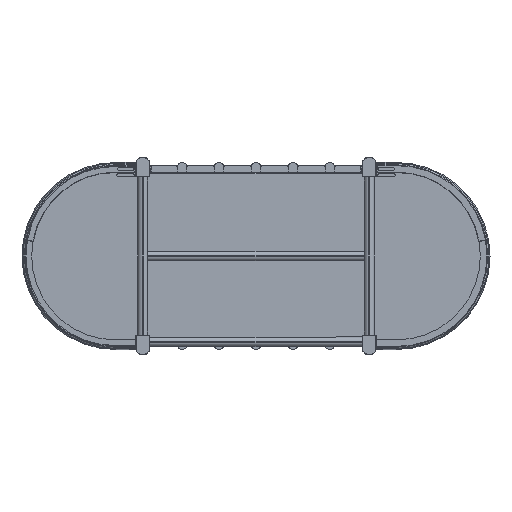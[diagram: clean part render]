
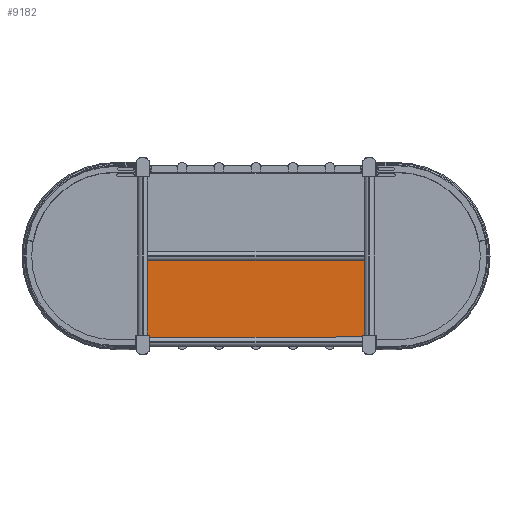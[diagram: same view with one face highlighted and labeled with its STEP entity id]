
A CAD part, front view. The second image highlights one B-rep face of the part: STEP entity #9182.
In plain terms, the highlighted planar face has unit normal (0, -1, 0).
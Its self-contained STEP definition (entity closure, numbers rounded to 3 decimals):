
#87 = EDGE_CURVE ( 'NONE', #7983, #37846, #29804, .T. ) ;
#394 = CARTESIAN_POINT ( 'NONE',  ( -242., 745., -191. ) ) ;
#412 = EDGE_CURVE ( 'NONE', #27835, #12278, #17730, .T. ) ;
#912 = ORIENTED_EDGE ( 'NONE', *, *, #33709, .F. ) ;
#2068 = ORIENTED_EDGE ( 'NONE', *, *, #19339, .F. ) ;
#2207 = VERTEX_POINT ( 'NONE', #38625 ) ;
#2539 = CARTESIAN_POINT ( 'NONE',  ( 320., 745., 0. ) ) ;
#2897 = CARTESIAN_POINT ( 'NONE',  ( 74., 745., -191. ) ) ;
#3186 = CARTESIAN_POINT ( 'NONE',  ( 0., 745., -191. ) ) ;
#3383 = CARTESIAN_POINT ( 'NONE',  ( -94., 745., -191. ) ) ;
#3809 = LINE ( 'NONE', #7583, #35903 ) ;
#3995 = CARTESIAN_POINT ( 'NONE',  ( -247., 745., -11. ) ) ;
#4085 = CARTESIAN_POINT ( 'NONE',  ( -168., 745., -191. ) ) ;
#4111 = EDGE_CURVE ( 'NONE', #30692, #13128, #5861, .T. ) ;
#4134 = VECTOR ( 'NONE', #18621, 1000. ) ;
#4641 = EDGE_CURVE ( 'NONE', #5476, #13377, #25584, .T. ) ;
#4764 = CARTESIAN_POINT ( 'NONE',  ( -158., 745., -191. ) ) ;
#4911 = CARTESIAN_POINT ( 'NONE',  ( -10., 745., -191. ) ) ;
#5269 = EDGE_LOOP ( 'NONE', ( #12206, #37447, #6153, #46299, #31481, #27452, #912, #41655, #42933, #9352, #6226, #2068, #36831, #36658, #5713, #14315, #11573, #26604 ) ) ;
#5476 = VERTEX_POINT ( 'NONE', #8665 ) ;
#5713 = ORIENTED_EDGE ( 'NONE', *, *, #412, .F. ) ;
#5832 = DIRECTION ( 'NONE',  ( 0., 0., 1. ) ) ;
#5861 = LINE ( 'NONE', #16699, #35597 ) ;
#6153 = ORIENTED_EDGE ( 'NONE', *, *, #19006, .F. ) ;
#6226 = ORIENTED_EDGE ( 'NONE', *, *, #30829, .T. ) ;
#6296 = LINE ( 'NONE', #42138, #11784 ) ;
#6305 = CARTESIAN_POINT ( 'NONE',  ( 242., 745., -191. ) ) ;
#7363 = DIRECTION ( 'NONE',  ( 0., 0., -1. ) ) ;
#7492 = CARTESIAN_POINT ( 'NONE',  ( 178., 745., -191. ) ) ;
#7559 = LINE ( 'NONE', #10868, #4134 ) ;
#7583 = CARTESIAN_POINT ( 'NONE',  ( 84., 745., -191. ) ) ;
#7983 = VERTEX_POINT ( 'NONE', #394 ) ;
#8665 = CARTESIAN_POINT ( 'NONE',  ( 247., 745., -180. ) ) ;
#8895 = LINE ( 'NONE', #37655, #31522 ) ;
#9084 = VERTEX_POINT ( 'NONE', #4911 ) ;
#9182 = ADVANCED_FACE ( 'NONE', ( #34594 ), #41208, .T. ) ;
#9352 = ORIENTED_EDGE ( 'NONE', *, *, #44573, .F. ) ;
#10475 = LINE ( 'NONE', #20372, #28338 ) ;
#10868 = CARTESIAN_POINT ( 'NONE',  ( -306.237, 745., -11. ) ) ;
#10967 = VECTOR ( 'NONE', #40953, 1000. ) ;
#11573 = ORIENTED_EDGE ( 'NONE', *, *, #41169, .T. ) ;
#11784 = VECTOR ( 'NONE', #39521, 1000. ) ;
#12177 = CARTESIAN_POINT ( 'NONE',  ( -74., 745., -191. ) ) ;
#12206 = ORIENTED_EDGE ( 'NONE', *, *, #25236, .F. ) ;
#12278 = VERTEX_POINT ( 'NONE', #7492 ) ;
#12833 = CARTESIAN_POINT ( 'NONE',  ( -247., 745., -180. ) ) ;
#13128 = VERTEX_POINT ( 'NONE', #3383 ) ;
#13280 = EDGE_CURVE ( 'NONE', #31636, #41353, #36382, .T. ) ;
#13377 = VERTEX_POINT ( 'NONE', #42648 ) ;
#13693 = EDGE_CURVE ( 'NONE', #12278, #2207, #8895, .T. ) ;
#13878 = VECTOR ( 'NONE', #5832, 1000. ) ;
#14315 = ORIENTED_EDGE ( 'NONE', *, *, #37749, .T. ) ;
#14665 = LINE ( 'NONE', #29277, #15248 ) ;
#15248 = VECTOR ( 'NONE', #7363, 1000. ) ;
#16111 = CARTESIAN_POINT ( 'NONE',  ( -242., 745., -211. ) ) ;
#16232 = CARTESIAN_POINT ( 'NONE',  ( 10., 745., -191. ) ) ;
#16699 = CARTESIAN_POINT ( 'NONE',  ( -84., 745., -191. ) ) ;
#17105 = LINE ( 'NONE', #41873, #22631 ) ;
#17218 = CARTESIAN_POINT ( 'NONE',  ( 0., 745., -191. ) ) ;
#17730 = LINE ( 'NONE', #36115, #38526 ) ;
#17948 = VECTOR ( 'NONE', #43687, 1000. ) ;
#18292 = VECTOR ( 'NONE', #34547, 1000. ) ;
#18621 = DIRECTION ( 'NONE',  ( 1., 0., 0. ) ) ;
#19006 = EDGE_CURVE ( 'NONE', #37846, #34819, #6296, .T. ) ;
#19339 = EDGE_CURVE ( 'NONE', #32459, #31330, #10475, .T. ) ;
#19839 = CARTESIAN_POINT ( 'NONE',  ( 242., 745., -180. ) ) ;
#19917 = EDGE_CURVE ( 'NONE', #32459, #2207, #3809, .T. ) ;
#20372 = CARTESIAN_POINT ( 'NONE',  ( 84., 745., -191. ) ) ;
#20777 = DIRECTION ( 'NONE',  ( -1., 0., 0. ) ) ;
#22005 = VECTOR ( 'NONE', #39026, 1000. ) ;
#22040 = CARTESIAN_POINT ( 'NONE',  ( 247., 745., -248.622 ) ) ;
#22330 = CARTESIAN_POINT ( 'NONE',  ( 320., 745., -191. ) ) ;
#22631 = VECTOR ( 'NONE', #26628, 1000. ) ;
#23744 = LINE ( 'NONE', #38123, #13878 ) ;
#24402 = LINE ( 'NONE', #3186, #18292 ) ;
#25236 = EDGE_CURVE ( 'NONE', #31928, #13377, #7559, .T. ) ;
#25584 = LINE ( 'NONE', #22040, #22005 ) ;
#26108 = LINE ( 'NONE', #22330, #10967 ) ;
#26416 = AXIS2_PLACEMENT_3D ( 'NONE', #2539, #27745, #45204 ) ;
#26604 = ORIENTED_EDGE ( 'NONE', *, *, #4641, .T. ) ;
#26628 = DIRECTION ( 'NONE',  ( -1., 0., 0. ) ) ;
#27452 = ORIENTED_EDGE ( 'NONE', *, *, #13280, .F. ) ;
#27614 = LINE ( 'NONE', #42005, #42881 ) ;
#27745 = DIRECTION ( 'NONE',  ( 0., -1., 0. ) ) ;
#27835 = VERTEX_POINT ( 'NONE', #6305 ) ;
#28070 = DIRECTION ( 'NONE',  ( -1., 0., 0. ) ) ;
#28338 = VECTOR ( 'NONE', #46072, 1000. ) ;
#29277 = CARTESIAN_POINT ( 'NONE',  ( -247., 745., 248.622 ) ) ;
#29804 = LINE ( 'NONE', #16111, #45261 ) ;
#30692 = VERTEX_POINT ( 'NONE', #12177 ) ;
#30829 = EDGE_CURVE ( 'NONE', #32128, #31330, #24402, .T. ) ;
#31086 = DIRECTION ( 'NONE',  ( -1., 0., 0. ) ) ;
#31330 = VERTEX_POINT ( 'NONE', #2897 ) ;
#31470 = EDGE_CURVE ( 'NONE', #31928, #34819, #14665, .T. ) ;
#31481 = ORIENTED_EDGE ( 'NONE', *, *, #35415, .F. ) ;
#31522 = VECTOR ( 'NONE', #40972, 1000. ) ;
#31636 = VERTEX_POINT ( 'NONE', #4764 ) ;
#31928 = VERTEX_POINT ( 'NONE', #3995 ) ;
#32090 = VECTOR ( 'NONE', #36817, 1000. ) ;
#32105 = DIRECTION ( 'NONE',  ( 1., 0., 0. ) ) ;
#32128 = VERTEX_POINT ( 'NONE', #16232 ) ;
#32459 = VERTEX_POINT ( 'NONE', #44887 ) ;
#33709 = EDGE_CURVE ( 'NONE', #13128, #31636, #26108, .T. ) ;
#33803 = DIRECTION ( 'NONE',  ( 0., 0., 1. ) ) ;
#34547 = DIRECTION ( 'NONE',  ( 1., 0., 0. ) ) ;
#34594 = FACE_OUTER_BOUND ( 'NONE', #5269, .T. ) ;
#34674 = VECTOR ( 'NONE', #28070, 1000. ) ;
#34819 = VERTEX_POINT ( 'NONE', #12833 ) ;
#34943 = CARTESIAN_POINT ( 'NONE',  ( -178., 745., -191. ) ) ;
#35148 = LINE ( 'NONE', #17218, #34674 ) ;
#35415 = EDGE_CURVE ( 'NONE', #41353, #7983, #27614, .T. ) ;
#35597 = VECTOR ( 'NONE', #31086, 1000. ) ;
#35889 = DIRECTION ( 'NONE',  ( -1., 0., 0. ) ) ;
#35903 = VECTOR ( 'NONE', #32105, 1000. ) ;
#36115 = CARTESIAN_POINT ( 'NONE',  ( 320., 745., -191. ) ) ;
#36382 = LINE ( 'NONE', #4085, #17948 ) ;
#36658 = ORIENTED_EDGE ( 'NONE', *, *, #13693, .F. ) ;
#36817 = DIRECTION ( 'NONE',  ( 1., 0., 0. ) ) ;
#36831 = ORIENTED_EDGE ( 'NONE', *, *, #19917, .T. ) ;
#37447 = ORIENTED_EDGE ( 'NONE', *, *, #31470, .T. ) ;
#37655 = CARTESIAN_POINT ( 'NONE',  ( 320., 745., -191. ) ) ;
#37749 = EDGE_CURVE ( 'NONE', #27835, #46451, #23744, .T. ) ;
#37846 = VERTEX_POINT ( 'NONE', #39289 ) ;
#38123 = CARTESIAN_POINT ( 'NONE',  ( 242., 745., -211. ) ) ;
#38526 = VECTOR ( 'NONE', #35889, 1000. ) ;
#38625 = CARTESIAN_POINT ( 'NONE',  ( 158., 745., -191. ) ) ;
#39026 = DIRECTION ( 'NONE',  ( 0., 0., 1. ) ) ;
#39289 = CARTESIAN_POINT ( 'NONE',  ( -242., 745., -180. ) ) ;
#39521 = DIRECTION ( 'NONE',  ( -1., 0., 0. ) ) ;
#40953 = DIRECTION ( 'NONE',  ( -1., 0., 0. ) ) ;
#40972 = DIRECTION ( 'NONE',  ( -1., 0., 0. ) ) ;
#41169 = EDGE_CURVE ( 'NONE', #46451, #5476, #46542, .T. ) ;
#41208 = PLANE ( 'NONE',  #26416 ) ;
#41353 = VERTEX_POINT ( 'NONE', #34943 ) ;
#41655 = ORIENTED_EDGE ( 'NONE', *, *, #4111, .F. ) ;
#41873 = CARTESIAN_POINT ( 'NONE',  ( 320., 745., -191. ) ) ;
#42005 = CARTESIAN_POINT ( 'NONE',  ( 320., 745., -191. ) ) ;
#42138 = CARTESIAN_POINT ( 'NONE',  ( -242., 745., -180. ) ) ;
#42648 = CARTESIAN_POINT ( 'NONE',  ( 247., 745., -11. ) ) ;
#42881 = VECTOR ( 'NONE', #20777, 1000. ) ;
#42933 = ORIENTED_EDGE ( 'NONE', *, *, #44827, .F. ) ;
#43665 = CARTESIAN_POINT ( 'NONE',  ( 242., 745., -180. ) ) ;
#43687 = DIRECTION ( 'NONE',  ( -1., 0., 0. ) ) ;
#44573 = EDGE_CURVE ( 'NONE', #32128, #9084, #35148, .T. ) ;
#44827 = EDGE_CURVE ( 'NONE', #9084, #30692, #17105, .T. ) ;
#44887 = CARTESIAN_POINT ( 'NONE',  ( 94., 745., -191. ) ) ;
#45204 = DIRECTION ( 'NONE',  ( 0., 0., -1. ) ) ;
#45261 = VECTOR ( 'NONE', #33803, 1000. ) ;
#46072 = DIRECTION ( 'NONE',  ( -1., 0., 0. ) ) ;
#46299 = ORIENTED_EDGE ( 'NONE', *, *, #87, .F. ) ;
#46451 = VERTEX_POINT ( 'NONE', #19839 ) ;
#46542 = LINE ( 'NONE', #43665, #32090 ) ;
